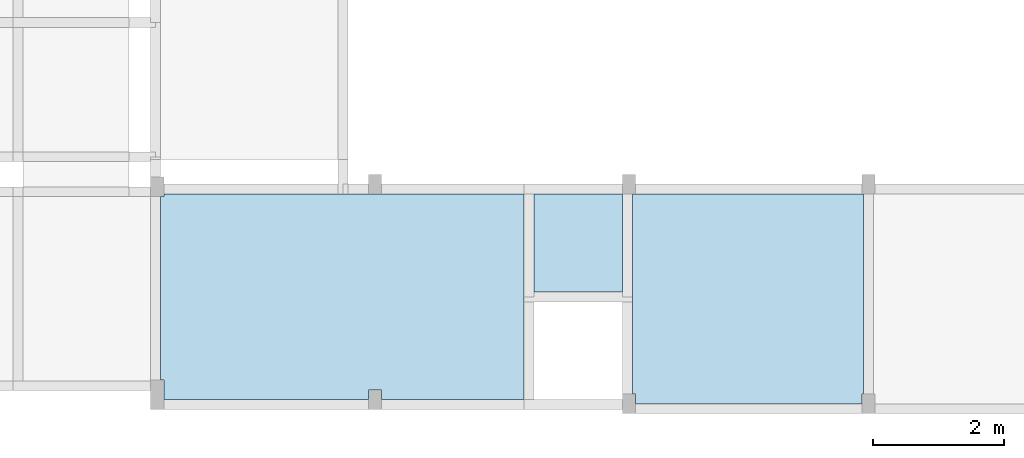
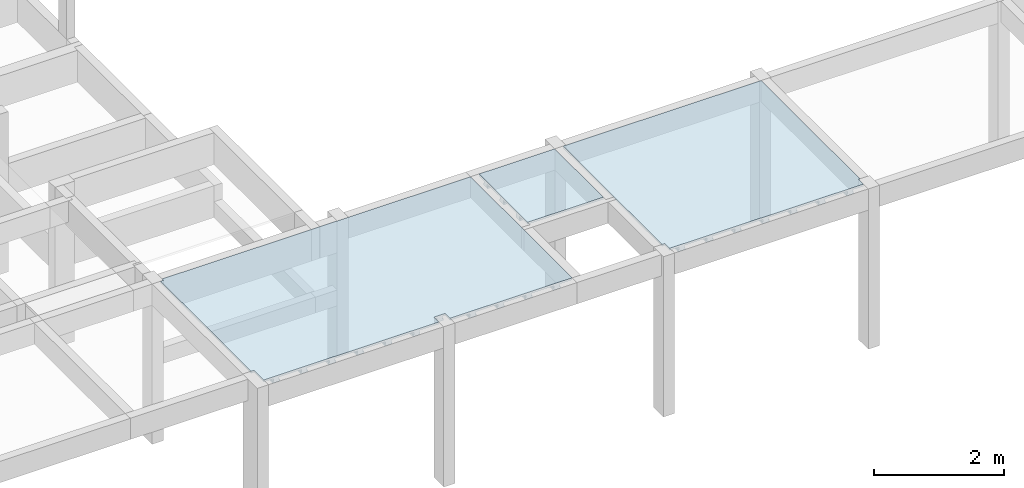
# One storey, part 10 of 21: 3 slabs.
"""IFC4 building model written with IfcOpenShell, lengths in centimetres."""

from ifc_helpers import new_model, si_unit, derived_unit, frame, origin_with_axes, place, context, project, spatial, polyline, outline, extrude, faceted_brep, material, element, save


model = new_model("IFC4")

# Units and contexts
model_context = context("Model", 3, precision=1e-05, world=origin_with_axes(), identifier="Body")
ifc_project = project(units=[si_unit("LENGTHUNIT", "METRE", prefix="CENTI"), si_unit("VOLUMEUNIT", "CUBIC_METRE"), si_unit("AREAUNIT", "SQUARE_METRE"), si_unit("POWERUNIT", "WATT"), si_unit("LUMINOUSFLUXUNIT", "LUMEN"), si_unit("ELECTRICCURRENTUNIT", "AMPERE"), si_unit("PRESSUREUNIT", "PASCAL", prefix="KILO"), si_unit("MASSUNIT", "GRAM", prefix="KILO"), si_unit("PLANEANGLEUNIT", "RADIAN"), derived_unit("VOLUMETRICFLOWRATEUNIT", [(si_unit("LENGTHUNIT", "METRE"), 3), (si_unit("TIMEUNIT", "SECOND"), -1)])], contexts=[model_context])

# Site, building, storey
site_placement = place(None, origin_with_axes())
site = spatial("IfcSite", under=ifc_project, at=site_placement)
building_placement = place(site_placement, frame((0.0, 0.0, -295.0)))
building = spatial("IfcBuilding", under=site, at=building_placement)
placement_1 = place(building_placement, origin_with_axes())
placement_2 = place(placement_1, frame((0.0, 0.0, 101.0), z_axis=(0.0, 0.0, 1.0), x_axis=(1.0, 0.0, 0.0)))
placement_3 = place(placement_2, frame((0.0, 0.0, 204.0), z_axis=(0.0, 0.0, 1.0), x_axis=(1.0, 0.0, 0.0)))
placement_4 = place(placement_3, frame((0.0, 0.0, 292.0), z_axis=(0.0, 0.0, 1.0), x_axis=(1.0, 0.0, 0.0)))
storey_placement = place(placement_4, frame((0.0, 0.0, 302.0), z_axis=(0.0, 0.0, 1.0), x_axis=(1.0, 0.0, 0.0)))
storey = spatial("IfcBuildingStorey", under=building, at=storey_placement, Name="PAVTO 02", CompositionType="ELEMENT", Elevation=604.0)

# Slabs
ifc_material = material(Name="Concreto")
slab_1_placement = place(storey_placement, frame((1466.25, -7001.065, 0.0), z_axis=(0.0, 0.0, 1.0), x_axis=(1.0, 0.0, 0.0)))
element("IfcSlab", 1, at=slab_1_placement, inside=storey, material=ifc_material, Name="L238", PredefinedType="FLOOR", context=model_context, shape_type="SolidModel", body=[
    extrude(outline(polyline([(39.71, -141.865), (59.71, -141.865), (59.71, -156.864), (277.349, -156.865), (277.35, 156.864), (-272.349, 156.865), (-272.349, 152.714), (-277.349, 152.714), (-277.35, -126.864), (-272.349, -126.865), (-272.349, -156.865), (39.71, -156.865), (39.71, -141.865), (39.71, -141.865)])), frame((0.0, 0.0, -4.0), z_axis=(0.0, 0.0, 1.0), x_axis=(1.0, 0.0, 0.0)), (0.0, 0.0, 1.0), 4.0),
    faceted_brep([(-5.0, -156.865, -12.0), (-5.0, 156.8645, -12.0), (5.0, 156.8645, -12.0), (5.0, -156.865, -12.0), (5.0, -156.865, -4.0), (5.0, 156.8645, -4.0), (-5.0, 156.8645, -4.0), (-5.0, -156.865, -4.0)], [[[0, 1, 2, 3]], [[4, 5, 6, 7]], [[4, 3, 5]], [[3, 2, 5]], [[5, 2, 6]], [[2, 1, 6]], [[6, 1, 7]], [[1, 0, 7]], [[7, 0, 4]], [[0, 3, 4]]]),
    faceted_brep([(-6.5, -156.865, -12.0), (-6.5, 156.8645, -12.0), (-5.0, 156.8645, -12.0), (-5.0, -156.865, -12.0), (-5.0, -156.865, -9.0), (-5.0, 156.8645, -9.0), (-6.5, 156.8645, -9.0), (-6.5, -156.865, -9.0)], [[[0, 1, 2, 3]], [[4, 5, 6, 7]], [[4, 3, 5]], [[3, 2, 5]], [[5, 2, 6]], [[2, 1, 6]], [[6, 1, 7]], [[1, 0, 7]], [[7, 0, 4]], [[0, 3, 4]]]),
    faceted_brep([(5.0, -156.865, -12.0), (5.0, 156.8645, -12.0), (6.5, 156.8645, -12.0), (6.5, -156.865, -12.0), (6.5, -156.865, -9.0), (6.5, 156.8645, -9.0), (5.0, 156.8645, -9.0), (5.0, -156.865, -9.0)], [[[0, 1, 2, 3]], [[4, 5, 6, 7]], [[4, 3, 5]], [[3, 2, 5]], [[5, 2, 6]], [[2, 1, 6]], [[6, 1, 7]], [[1, 0, 7]], [[7, 0, 4]], [[0, 3, 4]]]),
    faceted_brep([(-55.0, -156.865, -12.0), (-55.0, 156.8645, -12.0), (-45.0, 156.8645, -12.0), (-45.0, -156.865, -12.0), (-45.0, -156.865, -4.0), (-45.0, 156.8645, -4.0), (-55.0, 156.8645, -4.0), (-55.0, -156.865, -4.0)], [[[0, 1, 2, 3]], [[4, 5, 6, 7]], [[4, 3, 5]], [[3, 2, 5]], [[5, 2, 6]], [[2, 1, 6]], [[6, 1, 7]], [[1, 0, 7]], [[7, 0, 4]], [[0, 3, 4]]]),
    faceted_brep([(-56.5, -156.865, -12.0), (-56.5, 156.8645, -12.0), (-55.0, 156.8645, -12.0), (-55.0, -156.865, -12.0), (-55.0, -156.865, -9.0), (-55.0, 156.8645, -9.0), (-56.5, 156.8645, -9.0), (-56.5, -156.865, -9.0)], [[[0, 1, 2, 3]], [[4, 5, 6, 7]], [[4, 3, 5]], [[3, 2, 5]], [[5, 2, 6]], [[2, 1, 6]], [[6, 1, 7]], [[1, 0, 7]], [[7, 0, 4]], [[0, 3, 4]]]),
    faceted_brep([(-45.0, -156.865, -12.0), (-45.0, 156.8645, -12.0), (-43.5, 156.8645, -12.0), (-43.5, -156.865, -12.0), (-43.5, -156.865, -9.0), (-43.5, 156.8645, -9.0), (-45.0, 156.8645, -9.0), (-45.0, -156.865, -9.0)], [[[0, 1, 2, 3]], [[4, 5, 6, 7]], [[4, 3, 5]], [[3, 2, 5]], [[5, 2, 6]], [[2, 1, 6]], [[6, 1, 7]], [[1, 0, 7]], [[7, 0, 4]], [[0, 3, 4]]]),
    faceted_brep([(-105.0, -156.865, -12.0), (-105.0, 156.8645, -12.0), (-95.0, 156.8645, -12.0), (-95.0, -156.865, -12.0), (-95.0, -156.865, -4.0), (-95.0, 156.8645, -4.0), (-105.0, 156.8645, -4.0), (-105.0, -156.865, -4.0)], [[[0, 1, 2, 3]], [[4, 5, 6, 7]], [[4, 3, 5]], [[3, 2, 5]], [[5, 2, 6]], [[2, 1, 6]], [[6, 1, 7]], [[1, 0, 7]], [[7, 0, 4]], [[0, 3, 4]]]),
    faceted_brep([(-106.5, -156.865, -12.0), (-106.5, 156.8645, -12.0), (-105.0, 156.8645, -12.0), (-105.0, -156.865, -12.0), (-105.0, -156.865, -9.0), (-105.0, 156.8645, -9.0), (-106.5, 156.8645, -9.0), (-106.5, -156.865, -9.0)], [[[0, 1, 2, 3]], [[4, 5, 6, 7]], [[4, 3, 5]], [[3, 2, 5]], [[5, 2, 6]], [[2, 1, 6]], [[6, 1, 7]], [[1, 0, 7]], [[7, 0, 4]], [[0, 3, 4]]]),
    faceted_brep([(-95.0, -156.865, -12.0), (-95.0, 156.8645, -12.0), (-93.5, 156.8645, -12.0), (-93.5, -156.865, -12.0), (-93.5, -156.865, -9.0), (-93.5, 156.8645, -9.0), (-95.0, 156.8645, -9.0), (-95.0, -156.865, -9.0)], [[[0, 1, 2, 3]], [[4, 5, 6, 7]], [[4, 3, 5]], [[3, 2, 5]], [[5, 2, 6]], [[2, 1, 6]], [[6, 1, 7]], [[1, 0, 7]], [[7, 0, 4]], [[0, 3, 4]]]),
    faceted_brep([(-155.0, -156.865, -12.0), (-155.0, 156.8645, -12.0), (-145.0, 156.8645, -12.0), (-145.0, -156.865, -12.0), (-145.0, -156.865, -4.0), (-145.0, 156.8645, -4.0), (-155.0, 156.8645, -4.0), (-155.0, -156.865, -4.0)], [[[0, 1, 2, 3]], [[4, 5, 6, 7]], [[4, 3, 5]], [[3, 2, 5]], [[5, 2, 6]], [[2, 1, 6]], [[6, 1, 7]], [[1, 0, 7]], [[7, 0, 4]], [[0, 3, 4]]]),
    faceted_brep([(-156.5, -156.865, -12.0), (-156.5, 156.8645, -12.0), (-155.0, 156.8645, -12.0), (-155.0, -156.865, -12.0), (-155.0, -156.865, -9.0), (-155.0, 156.8645, -9.0), (-156.5, 156.8645, -9.0), (-156.5, -156.865, -9.0)], [[[0, 1, 2, 3]], [[4, 5, 6, 7]], [[4, 3, 5]], [[3, 2, 5]], [[5, 2, 6]], [[2, 1, 6]], [[6, 1, 7]], [[1, 0, 7]], [[7, 0, 4]], [[0, 3, 4]]]),
    faceted_brep([(-145.0, -156.865, -12.0), (-145.0, 156.8645, -12.0), (-143.5, 156.8645, -12.0), (-143.5, -156.865, -12.0), (-143.5, -156.865, -9.0), (-143.5, 156.8645, -9.0), (-145.0, 156.8645, -9.0), (-145.0, -156.865, -9.0)], [[[0, 1, 2, 3]], [[4, 5, 6, 7]], [[4, 3, 5]], [[3, 2, 5]], [[5, 2, 6]], [[2, 1, 6]], [[6, 1, 7]], [[1, 0, 7]], [[7, 0, 4]], [[0, 3, 4]]]),
    faceted_brep([(-205.0, -156.865, -12.0), (-205.0, 156.8645, -12.0), (-195.0, 156.8645, -12.0), (-195.0, -156.865, -12.0), (-195.0, -156.865, -4.0), (-195.0, 156.8645, -4.0), (-205.0, 156.8645, -4.0), (-205.0, -156.865, -4.0)], [[[0, 1, 2, 3]], [[4, 5, 6, 7]], [[4, 3, 5]], [[3, 2, 5]], [[5, 2, 6]], [[2, 1, 6]], [[6, 1, 7]], [[1, 0, 7]], [[7, 0, 4]], [[0, 3, 4]]]),
    faceted_brep([(-206.5, -156.865, -12.0), (-206.5, 156.8645, -12.0), (-205.0, 156.8645, -12.0), (-205.0, -156.865, -12.0), (-205.0, -156.865, -9.0), (-205.0, 156.8645, -9.0), (-206.5, 156.8645, -9.0), (-206.5, -156.865, -9.0)], [[[0, 1, 2, 3]], [[4, 5, 6, 7]], [[4, 3, 5]], [[3, 2, 5]], [[5, 2, 6]], [[2, 1, 6]], [[6, 1, 7]], [[1, 0, 7]], [[7, 0, 4]], [[0, 3, 4]]]),
    faceted_brep([(-195.0, -156.865, -12.0), (-195.0, 156.8645, -12.0), (-193.5, 156.8645, -12.0), (-193.5, -156.865, -12.0), (-193.5, -156.865, -9.0), (-193.5, 156.8645, -9.0), (-195.0, 156.8645, -9.0), (-195.0, -156.865, -9.0)], [[[0, 1, 2, 3]], [[4, 5, 6, 7]], [[4, 3, 5]], [[3, 2, 5]], [[5, 2, 6]], [[2, 1, 6]], [[6, 1, 7]], [[1, 0, 7]], [[7, 0, 4]], [[0, 3, 4]]]),
    faceted_brep([(-255.0, -156.865, -12.0), (-255.0, 156.8645, -12.0), (-245.0, 156.8645, -12.0), (-245.0, -156.865, -12.0), (-245.0, -156.865, -4.0), (-245.0, 156.8645, -4.0), (-255.0, 156.8645, -4.0), (-255.0, -156.865, -4.0)], [[[0, 1, 2, 3]], [[4, 5, 6, 7]], [[4, 3, 5]], [[3, 2, 5]], [[5, 2, 6]], [[2, 1, 6]], [[6, 1, 7]], [[1, 0, 7]], [[7, 0, 4]], [[0, 3, 4]]]),
    faceted_brep([(-256.5, -156.865, -12.0), (-256.5, 156.8645, -12.0), (-255.0, 156.8645, -12.0), (-255.0, -156.865, -12.0), (-255.0, -156.865, -9.0), (-255.0, 156.8645, -9.0), (-256.5, 156.8645, -9.0), (-256.5, -156.865, -9.0)], [[[0, 1, 2, 3]], [[4, 5, 6, 7]], [[4, 3, 5]], [[3, 2, 5]], [[5, 2, 6]], [[2, 1, 6]], [[6, 1, 7]], [[1, 0, 7]], [[7, 0, 4]], [[0, 3, 4]]]),
    faceted_brep([(-245.0, -156.865, -12.0), (-245.0, 156.8645, -12.0), (-243.5, 156.8645, -12.0), (-243.5, -156.865, -12.0), (-243.5, -156.865, -9.0), (-243.5, 156.8645, -9.0), (-245.0, 156.8645, -9.0), (-245.0, -156.865, -9.0)], [[[0, 1, 2, 3]], [[4, 5, 6, 7]], [[4, 3, 5]], [[3, 2, 5]], [[5, 2, 6]], [[2, 1, 6]], [[6, 1, 7]], [[1, 0, 7]], [[7, 0, 4]], [[0, 3, 4]]]),
    faceted_brep([(45.0, -141.865, -12.0), (45.0, 156.8645, -12.0), (55.0, 156.8645, -12.0), (55.0, -141.865, -12.0), (55.0, -141.865, -4.0), (55.0, 156.8645, -4.0), (45.0, 156.8645, -4.0), (45.0, -141.865, -4.0)], [[[0, 1, 2, 3]], [[4, 5, 6, 7]], [[4, 3, 5]], [[3, 2, 5]], [[5, 2, 6]], [[2, 1, 6]], [[6, 1, 7]], [[1, 0, 7]], [[7, 0, 4]], [[0, 3, 4]]]),
    faceted_brep([(43.5, -141.865, -12.0), (43.5, 156.8645, -12.0), (45.0, 156.8645, -12.0), (45.0, -141.865, -12.0), (45.0, -141.865, -9.0), (45.0, 156.8645, -9.0), (43.5, 156.8645, -9.0), (43.5, -141.865, -9.0)], [[[0, 1, 2, 3]], [[4, 5, 6, 7]], [[4, 3, 5]], [[3, 2, 5]], [[5, 2, 6]], [[2, 1, 6]], [[6, 1, 7]], [[1, 0, 7]], [[7, 0, 4]], [[0, 3, 4]]]),
    faceted_brep([(55.0, -141.865, -12.0), (55.0, 156.8645, -12.0), (56.5, 156.8645, -12.0), (56.5, -141.865, -12.0), (56.5, -141.865, -9.0), (56.5, 156.8645, -9.0), (55.0, 156.8645, -9.0), (55.0, -141.865, -9.0)], [[[0, 1, 2, 3]], [[4, 5, 6, 7]], [[4, 3, 5]], [[3, 2, 5]], [[5, 2, 6]], [[2, 1, 6]], [[6, 1, 7]], [[1, 0, 7]], [[7, 0, 4]], [[0, 3, 4]]]),
    faceted_brep([(95.0, -156.8645, -12.0), (95.0, 156.8645, -12.0), (105.0, 156.8645, -12.0), (105.0, -156.8645, -12.0), (105.0, -156.8645, -4.0), (105.0, 156.8645, -4.0), (95.0, 156.8645, -4.0), (95.0, -156.8645, -4.0)], [[[0, 1, 2, 3]], [[4, 5, 6, 7]], [[4, 3, 5]], [[3, 2, 5]], [[5, 2, 6]], [[2, 1, 6]], [[6, 1, 7]], [[1, 0, 7]], [[7, 0, 4]], [[0, 3, 4]]]),
    faceted_brep([(93.5, -156.8645, -12.0), (93.5, 156.8645, -12.0), (95.0, 156.8645, -12.0), (95.0, -156.8645, -12.0), (95.0, -156.8645, -9.0), (95.0, 156.8645, -9.0), (93.5, 156.8645, -9.0), (93.5, -156.8645, -9.0)], [[[0, 1, 2, 3]], [[4, 5, 6, 7]], [[4, 3, 5]], [[3, 2, 5]], [[5, 2, 6]], [[2, 1, 6]], [[6, 1, 7]], [[1, 0, 7]], [[7, 0, 4]], [[0, 3, 4]]]),
    faceted_brep([(105.0, -156.8645, -12.0), (105.0, 156.8645, -12.0), (106.5, 156.8645, -12.0), (106.5, -156.8645, -12.0), (106.5, -156.8645, -9.0), (106.5, 156.8645, -9.0), (105.0, 156.8645, -9.0), (105.0, -156.8645, -9.0)], [[[0, 1, 2, 3]], [[4, 5, 6, 7]], [[4, 3, 5]], [[3, 2, 5]], [[5, 2, 6]], [[2, 1, 6]], [[6, 1, 7]], [[1, 0, 7]], [[7, 0, 4]], [[0, 3, 4]]]),
    faceted_brep([(145.0, -156.8645, -12.0), (145.0, 156.8645, -12.0), (155.0, 156.8645, -12.0), (155.0, -156.8645, -12.0), (155.0, -156.8645, -4.0), (155.0, 156.8645, -4.0), (145.0, 156.8645, -4.0), (145.0, -156.8645, -4.0)], [[[0, 1, 2, 3]], [[4, 5, 6, 7]], [[4, 3, 5]], [[3, 2, 5]], [[5, 2, 6]], [[2, 1, 6]], [[6, 1, 7]], [[1, 0, 7]], [[7, 0, 4]], [[0, 3, 4]]]),
    faceted_brep([(143.5, -156.8645, -12.0), (143.5, 156.8645, -12.0), (145.0, 156.8645, -12.0), (145.0, -156.8645, -12.0), (145.0, -156.8645, -9.0), (145.0, 156.8645, -9.0), (143.5, 156.8645, -9.0), (143.5, -156.8645, -9.0)], [[[0, 1, 2, 3]], [[4, 5, 6, 7]], [[4, 3, 5]], [[3, 2, 5]], [[5, 2, 6]], [[2, 1, 6]], [[6, 1, 7]], [[1, 0, 7]], [[7, 0, 4]], [[0, 3, 4]]]),
    faceted_brep([(155.0, -156.8645, -12.0), (155.0, 156.8645, -12.0), (156.5, 156.8645, -12.0), (156.5, -156.8645, -12.0), (156.5, -156.8645, -9.0), (156.5, 156.8645, -9.0), (155.0, 156.8645, -9.0), (155.0, -156.8645, -9.0)], [[[0, 1, 2, 3]], [[4, 5, 6, 7]], [[4, 3, 5]], [[3, 2, 5]], [[5, 2, 6]], [[2, 1, 6]], [[6, 1, 7]], [[1, 0, 7]], [[7, 0, 4]], [[0, 3, 4]]]),
    faceted_brep([(195.0, -156.8645, -12.0), (195.0, 156.8645, -12.0), (205.0, 156.8645, -12.0), (205.0, -156.8645, -12.0), (205.0, -156.8645, -4.0), (205.0, 156.8645, -4.0), (195.0, 156.8645, -4.0), (195.0, -156.8645, -4.0)], [[[0, 1, 2, 3]], [[4, 5, 6, 7]], [[4, 3, 5]], [[3, 2, 5]], [[5, 2, 6]], [[2, 1, 6]], [[6, 1, 7]], [[1, 0, 7]], [[7, 0, 4]], [[0, 3, 4]]]),
    faceted_brep([(193.5, -156.8645, -12.0), (193.5, 156.8645, -12.0), (195.0, 156.8645, -12.0), (195.0, -156.8645, -12.0), (195.0, -156.8645, -9.0), (195.0, 156.8645, -9.0), (193.5, 156.8645, -9.0), (193.5, -156.8645, -9.0)], [[[0, 1, 2, 3]], [[4, 5, 6, 7]], [[4, 3, 5]], [[3, 2, 5]], [[5, 2, 6]], [[2, 1, 6]], [[6, 1, 7]], [[1, 0, 7]], [[7, 0, 4]], [[0, 3, 4]]]),
    faceted_brep([(205.0, -156.8645, -12.0), (205.0, 156.8645, -12.0), (206.5, 156.8645, -12.0), (206.5, -156.8645, -12.0), (206.5, -156.8645, -9.0), (206.5, 156.8645, -9.0), (205.0, 156.8645, -9.0), (205.0, -156.8645, -9.0)], [[[0, 1, 2, 3]], [[4, 5, 6, 7]], [[4, 3, 5]], [[3, 2, 5]], [[5, 2, 6]], [[2, 1, 6]], [[6, 1, 7]], [[1, 0, 7]], [[7, 0, 4]], [[0, 3, 4]]]),
    faceted_brep([(245.0, -156.8645, -12.0), (245.0, 156.8645, -12.0), (255.0, 156.8645, -12.0), (255.0, -156.8645, -12.0), (255.0, -156.8645, -4.0), (255.0, 156.8645, -4.0), (245.0, 156.8645, -4.0), (245.0, -156.8645, -4.0)], [[[0, 1, 2, 3]], [[4, 5, 6, 7]], [[4, 3, 5]], [[3, 2, 5]], [[5, 2, 6]], [[2, 1, 6]], [[6, 1, 7]], [[1, 0, 7]], [[7, 0, 4]], [[0, 3, 4]]]),
    faceted_brep([(243.5, -156.8645, -12.0), (243.5, 156.8645, -12.0), (245.0, 156.8645, -12.0), (245.0, -156.8645, -12.0), (245.0, -156.8645, -9.0), (245.0, 156.8645, -9.0), (243.5, 156.8645, -9.0), (243.5, -156.8645, -9.0)], [[[0, 1, 2, 3]], [[4, 5, 6, 7]], [[4, 3, 5]], [[3, 2, 5]], [[5, 2, 6]], [[2, 1, 6]], [[6, 1, 7]], [[1, 0, 7]], [[7, 0, 4]], [[0, 3, 4]]]),
    faceted_brep([(255.0, -156.8645, -12.0), (255.0, 156.8645, -12.0), (256.5, 156.8645, -12.0), (256.5, -156.8645, -12.0), (256.5, -156.8645, -9.0), (256.5, 156.8645, -9.0), (255.0, 156.8645, -9.0), (255.0, -156.8645, -9.0)], [[[0, 1, 2, 3]], [[4, 5, 6, 7]], [[4, 3, 5]], [[3, 2, 5]], [[5, 2, 6]], [[2, 1, 6]], [[6, 1, 7]], [[1, 0, 7]], [[7, 0, 4]], [[0, 3, 4]]]),
])
slab_2_placement = place(storey_placement, frame((1826.1, -6919.17, 0.0), z_axis=(0.0, 0.0, 1.0), x_axis=(1.0, 0.0, 0.0)))
element("IfcSlab", 2, at=slab_2_placement, inside=storey, material=ifc_material, Name="L239", PredefinedType="FLOOR", context=model_context, shape_type="SolidModel", body=[
    extrude(outline(polyline([(67.499, 74.97), (-67.499, 74.969), (-67.5, -74.97), (67.5, -74.97), (67.499, 74.97), (67.499, 74.97)])), frame((0.0, 0.0, -4.0), z_axis=(0.0, 0.0, 1.0), x_axis=(1.0, 0.0, 0.0)), (0.0, 0.0, 1.0), 4.0),
    faceted_brep([(-67.4995, -40.0, -12.0), (67.4995, -40.0, -12.0), (67.4995, -50.0, -12.0), (-67.4995, -50.0, -12.0), (-67.4995, -50.0, -4.0), (67.4995, -50.0, -4.0), (67.4995, -40.0, -4.0), (-67.4995, -40.0, -4.0)], [[[0, 1, 2, 3]], [[4, 5, 6, 7]], [[4, 3, 5]], [[3, 2, 5]], [[5, 2, 6]], [[2, 1, 6]], [[6, 1, 7]], [[1, 0, 7]], [[7, 0, 4]], [[0, 3, 4]]]),
    faceted_brep([(-67.4995, -38.5, -12.0), (67.4995, -38.5, -12.0), (67.4995, -40.0, -12.0), (-67.4995, -40.0, -12.0), (-67.4995, -40.0, -9.0), (67.4995, -40.0, -9.0), (67.4995, -38.5, -9.0), (-67.4995, -38.5, -9.0)], [[[0, 1, 2, 3]], [[4, 5, 6, 7]], [[4, 3, 5]], [[3, 2, 5]], [[5, 2, 6]], [[2, 1, 6]], [[6, 1, 7]], [[1, 0, 7]], [[7, 0, 4]], [[0, 3, 4]]]),
    faceted_brep([(-67.4995, -50.0, -12.0), (67.4995, -50.0, -12.0), (67.4995, -51.5, -12.0), (-67.4995, -51.5, -12.0), (-67.4995, -51.5, -9.0), (67.4995, -51.5, -9.0), (67.4995, -50.0, -9.0), (-67.4995, -50.0, -9.0)], [[[0, 1, 2, 3]], [[4, 5, 6, 7]], [[4, 3, 5]], [[3, 2, 5]], [[5, 2, 6]], [[2, 1, 6]], [[6, 1, 7]], [[1, 0, 7]], [[7, 0, 4]], [[0, 3, 4]]]),
    faceted_brep([(-67.4995, 10.0, -12.0), (67.4995, 10.0, -12.0), (67.4995, 0.0, -12.0), (-67.4995, 0.0, -12.0), (-67.4995, 0.0, -4.0), (67.4995, 0.0, -4.0), (67.4995, 10.0, -4.0), (-67.4995, 10.0, -4.0)], [[[0, 1, 2, 3]], [[4, 5, 6, 7]], [[4, 3, 5]], [[3, 2, 5]], [[5, 2, 6]], [[2, 1, 6]], [[6, 1, 7]], [[1, 0, 7]], [[7, 0, 4]], [[0, 3, 4]]]),
    faceted_brep([(-67.4995, 11.5, -12.0), (67.4995, 11.5, -12.0), (67.4995, 10.0, -12.0), (-67.4995, 10.0, -12.0), (-67.4995, 10.0, -9.0), (67.4995, 10.0, -9.0), (67.4995, 11.5, -9.0), (-67.4995, 11.5, -9.0)], [[[0, 1, 2, 3]], [[4, 5, 6, 7]], [[4, 3, 5]], [[3, 2, 5]], [[5, 2, 6]], [[2, 1, 6]], [[6, 1, 7]], [[1, 0, 7]], [[7, 0, 4]], [[0, 3, 4]]]),
    faceted_brep([(-67.4995, 0.0, -12.0), (67.4995, 0.0, -12.0), (67.4995, -1.5, -12.0), (-67.4995, -1.5, -12.0), (-67.4995, -1.5, -9.0), (67.4995, -1.5, -9.0), (67.4995, 0.0, -9.0), (-67.4995, 0.0, -9.0)], [[[0, 1, 2, 3]], [[4, 5, 6, 7]], [[4, 3, 5]], [[3, 2, 5]], [[5, 2, 6]], [[2, 1, 6]], [[6, 1, 7]], [[1, 0, 7]], [[7, 0, 4]], [[0, 3, 4]]]),
    faceted_brep([(-67.4995, 60.0, -12.0), (67.4995, 60.0, -12.0), (67.4995, 50.0, -12.0), (-67.4995, 50.0, -12.0), (-67.4995, 50.0, -4.0), (67.4995, 50.0, -4.0), (67.4995, 60.0, -4.0), (-67.4995, 60.0, -4.0)], [[[0, 1, 2, 3]], [[4, 5, 6, 7]], [[4, 3, 5]], [[3, 2, 5]], [[5, 2, 6]], [[2, 1, 6]], [[6, 1, 7]], [[1, 0, 7]], [[7, 0, 4]], [[0, 3, 4]]]),
    faceted_brep([(-67.4995, 61.5, -12.0), (67.4995, 61.5, -12.0), (67.4995, 60.0, -12.0), (-67.4995, 60.0, -12.0), (-67.4995, 60.0, -9.0), (67.4995, 60.0, -9.0), (67.4995, 61.5, -9.0), (-67.4995, 61.5, -9.0)], [[[0, 1, 2, 3]], [[4, 5, 6, 7]], [[4, 3, 5]], [[3, 2, 5]], [[5, 2, 6]], [[2, 1, 6]], [[6, 1, 7]], [[1, 0, 7]], [[7, 0, 4]], [[0, 3, 4]]]),
    faceted_brep([(-67.4995, 50.0, -12.0), (67.4995, 50.0, -12.0), (67.4995, 48.5, -12.0), (-67.4995, 48.5, -12.0), (-67.4995, 48.5, -9.0), (67.4995, 48.5, -9.0), (67.4995, 50.0, -9.0), (-67.4995, 50.0, -9.0)], [[[0, 1, 2, 3]], [[4, 5, 6, 7]], [[4, 3, 5]], [[3, 2, 5]], [[5, 2, 6]], [[2, 1, 6]], [[6, 1, 7]], [[1, 0, 7]], [[7, 0, 4]], [[0, 3, 4]]]),
])
slab_3_placement = place(storey_placement, frame((2084.915, -7004.255, 0.0), z_axis=(0.0, 0.0, 1.0), x_axis=(1.0, 0.0, 0.0)))
element("IfcSlab", 3, at=slab_3_placement, inside=storey, material=ifc_material, Name="L240", PredefinedType="FLOOR", context=model_context, shape_type="SolidModel", body=[
    extrude(outline(polyline([(173.815, -145.055), (176.314, -145.054), (176.315, 160.055), (-176.314, 160.055), (-176.315, -145.055), (-171.315, -145.055), (-171.314, -160.055), (173.815, -160.055), (173.815, -145.055), (173.815, -145.055)])), frame((0.0, 0.0, -4.0), z_axis=(0.0, 0.0, 1.0), x_axis=(1.0, 0.0, 0.0)), (0.0, 0.0, 1.0), 4.0),
    faceted_brep([(-5.0, -160.055, -12.0), (-5.0, 160.055, -12.0), (5.0, 160.055, -12.0), (5.0, -160.055, -12.0), (5.0, -160.055, -4.0), (5.0, 160.055, -4.0), (-5.0, 160.055, -4.0), (-5.0, -160.055, -4.0)], [[[0, 1, 2, 3]], [[4, 5, 6, 7]], [[4, 3, 5]], [[3, 2, 5]], [[5, 2, 6]], [[2, 1, 6]], [[6, 1, 7]], [[1, 0, 7]], [[7, 0, 4]], [[0, 3, 4]]]),
    faceted_brep([(-6.5, -160.055, -12.0), (-6.5, 160.055, -12.0), (-5.0, 160.055, -12.0), (-5.0, -160.055, -12.0), (-5.0, -160.055, -9.0), (-5.0, 160.055, -9.0), (-6.5, 160.055, -9.0), (-6.5, -160.055, -9.0)], [[[0, 1, 2, 3]], [[4, 5, 6, 7]], [[4, 3, 5]], [[3, 2, 5]], [[5, 2, 6]], [[2, 1, 6]], [[6, 1, 7]], [[1, 0, 7]], [[7, 0, 4]], [[0, 3, 4]]]),
    faceted_brep([(5.0, -160.055, -12.0), (5.0, 160.055, -12.0), (6.5, 160.055, -12.0), (6.5, -160.055, -12.0), (6.5, -160.055, -9.0), (6.5, 160.055, -9.0), (5.0, 160.055, -9.0), (5.0, -160.055, -9.0)], [[[0, 1, 2, 3]], [[4, 5, 6, 7]], [[4, 3, 5]], [[3, 2, 5]], [[5, 2, 6]], [[2, 1, 6]], [[6, 1, 7]], [[1, 0, 7]], [[7, 0, 4]], [[0, 3, 4]]]),
    faceted_brep([(-55.0, -160.055, -12.0), (-55.0, 160.055, -12.0), (-45.0, 160.055, -12.0), (-45.0, -160.055, -12.0), (-45.0, -160.055, -4.0), (-45.0, 160.055, -4.0), (-55.0, 160.055, -4.0), (-55.0, -160.055, -4.0)], [[[0, 1, 2, 3]], [[4, 5, 6, 7]], [[4, 3, 5]], [[3, 2, 5]], [[5, 2, 6]], [[2, 1, 6]], [[6, 1, 7]], [[1, 0, 7]], [[7, 0, 4]], [[0, 3, 4]]]),
    faceted_brep([(-56.5, -160.055, -12.0), (-56.5, 160.055, -12.0), (-55.0, 160.055, -12.0), (-55.0, -160.055, -12.0), (-55.0, -160.055, -9.0), (-55.0, 160.055, -9.0), (-56.5, 160.055, -9.0), (-56.5, -160.055, -9.0)], [[[0, 1, 2, 3]], [[4, 5, 6, 7]], [[4, 3, 5]], [[3, 2, 5]], [[5, 2, 6]], [[2, 1, 6]], [[6, 1, 7]], [[1, 0, 7]], [[7, 0, 4]], [[0, 3, 4]]]),
    faceted_brep([(-45.0, -160.055, -12.0), (-45.0, 160.055, -12.0), (-43.5, 160.055, -12.0), (-43.5, -160.055, -12.0), (-43.5, -160.055, -9.0), (-43.5, 160.055, -9.0), (-45.0, 160.055, -9.0), (-45.0, -160.055, -9.0)], [[[0, 1, 2, 3]], [[4, 5, 6, 7]], [[4, 3, 5]], [[3, 2, 5]], [[5, 2, 6]], [[2, 1, 6]], [[6, 1, 7]], [[1, 0, 7]], [[7, 0, 4]], [[0, 3, 4]]]),
    faceted_brep([(-105.0, -160.055, -12.0), (-105.0, 160.055, -12.0), (-95.0, 160.055, -12.0), (-95.0, -160.055, -12.0), (-95.0, -160.055, -4.0), (-95.0, 160.055, -4.0), (-105.0, 160.055, -4.0), (-105.0, -160.055, -4.0)], [[[0, 1, 2, 3]], [[4, 5, 6, 7]], [[4, 3, 5]], [[3, 2, 5]], [[5, 2, 6]], [[2, 1, 6]], [[6, 1, 7]], [[1, 0, 7]], [[7, 0, 4]], [[0, 3, 4]]]),
    faceted_brep([(-106.5, -160.055, -12.0), (-106.5, 160.055, -12.0), (-105.0, 160.055, -12.0), (-105.0, -160.055, -12.0), (-105.0, -160.055, -9.0), (-105.0, 160.055, -9.0), (-106.5, 160.055, -9.0), (-106.5, -160.055, -9.0)], [[[0, 1, 2, 3]], [[4, 5, 6, 7]], [[4, 3, 5]], [[3, 2, 5]], [[5, 2, 6]], [[2, 1, 6]], [[6, 1, 7]], [[1, 0, 7]], [[7, 0, 4]], [[0, 3, 4]]]),
    faceted_brep([(-95.0, -160.055, -12.0), (-95.0, 160.055, -12.0), (-93.5, 160.055, -12.0), (-93.5, -160.055, -12.0), (-93.5, -160.055, -9.0), (-93.5, 160.055, -9.0), (-95.0, 160.055, -9.0), (-95.0, -160.055, -9.0)], [[[0, 1, 2, 3]], [[4, 5, 6, 7]], [[4, 3, 5]], [[3, 2, 5]], [[5, 2, 6]], [[2, 1, 6]], [[6, 1, 7]], [[1, 0, 7]], [[7, 0, 4]], [[0, 3, 4]]]),
    faceted_brep([(-155.0, -160.055, -12.0), (-155.0, 160.055, -12.0), (-145.0, 160.055, -12.0), (-145.0, -160.055, -12.0), (-145.0, -160.055, -4.0), (-145.0, 160.055, -4.0), (-155.0, 160.055, -4.0), (-155.0, -160.055, -4.0)], [[[0, 1, 2, 3]], [[4, 5, 6, 7]], [[4, 3, 5]], [[3, 2, 5]], [[5, 2, 6]], [[2, 1, 6]], [[6, 1, 7]], [[1, 0, 7]], [[7, 0, 4]], [[0, 3, 4]]]),
    faceted_brep([(-156.5, -160.055, -12.0), (-156.5, 160.055, -12.0), (-155.0, 160.055, -12.0), (-155.0, -160.055, -12.0), (-155.0, -160.055, -9.0), (-155.0, 160.055, -9.0), (-156.5, 160.055, -9.0), (-156.5, -160.055, -9.0)], [[[0, 1, 2, 3]], [[4, 5, 6, 7]], [[4, 3, 5]], [[3, 2, 5]], [[5, 2, 6]], [[2, 1, 6]], [[6, 1, 7]], [[1, 0, 7]], [[7, 0, 4]], [[0, 3, 4]]]),
    faceted_brep([(-145.0, -160.055, -12.0), (-145.0, 160.055, -12.0), (-143.5, 160.055, -12.0), (-143.5, -160.055, -12.0), (-143.5, -160.055, -9.0), (-143.5, 160.055, -9.0), (-145.0, 160.055, -9.0), (-145.0, -160.055, -9.0)], [[[0, 1, 2, 3]], [[4, 5, 6, 7]], [[4, 3, 5]], [[3, 2, 5]], [[5, 2, 6]], [[2, 1, 6]], [[6, 1, 7]], [[1, 0, 7]], [[7, 0, 4]], [[0, 3, 4]]]),
    faceted_brep([(45.0, -160.055, -12.0), (45.0, 160.055, -12.0), (55.0, 160.055, -12.0), (55.0, -160.055, -12.0), (55.0, -160.055, -4.0), (55.0, 160.055, -4.0), (45.0, 160.055, -4.0), (45.0, -160.055, -4.0)], [[[0, 1, 2, 3]], [[4, 5, 6, 7]], [[4, 3, 5]], [[3, 2, 5]], [[5, 2, 6]], [[2, 1, 6]], [[6, 1, 7]], [[1, 0, 7]], [[7, 0, 4]], [[0, 3, 4]]]),
    faceted_brep([(43.5, -160.055, -12.0), (43.5, 160.055, -12.0), (45.0, 160.055, -12.0), (45.0, -160.055, -12.0), (45.0, -160.055, -9.0), (45.0, 160.055, -9.0), (43.5, 160.055, -9.0), (43.5, -160.055, -9.0)], [[[0, 1, 2, 3]], [[4, 5, 6, 7]], [[4, 3, 5]], [[3, 2, 5]], [[5, 2, 6]], [[2, 1, 6]], [[6, 1, 7]], [[1, 0, 7]], [[7, 0, 4]], [[0, 3, 4]]]),
    faceted_brep([(55.0, -160.055, -12.0), (55.0, 160.055, -12.0), (56.5, 160.055, -12.0), (56.5, -160.055, -12.0), (56.5, -160.055, -9.0), (56.5, 160.055, -9.0), (55.0, 160.055, -9.0), (55.0, -160.055, -9.0)], [[[0, 1, 2, 3]], [[4, 5, 6, 7]], [[4, 3, 5]], [[3, 2, 5]], [[5, 2, 6]], [[2, 1, 6]], [[6, 1, 7]], [[1, 0, 7]], [[7, 0, 4]], [[0, 3, 4]]]),
    faceted_brep([(95.0, -160.055, -12.0), (95.0, 160.055, -12.0), (105.0, 160.055, -12.0), (105.0, -160.055, -12.0), (105.0, -160.055, -4.0), (105.0, 160.055, -4.0), (95.0, 160.055, -4.0), (95.0, -160.055, -4.0)], [[[0, 1, 2, 3]], [[4, 5, 6, 7]], [[4, 3, 5]], [[3, 2, 5]], [[5, 2, 6]], [[2, 1, 6]], [[6, 1, 7]], [[1, 0, 7]], [[7, 0, 4]], [[0, 3, 4]]]),
    faceted_brep([(93.5, -160.055, -12.0), (93.5, 160.055, -12.0), (95.0, 160.055, -12.0), (95.0, -160.055, -12.0), (95.0, -160.055, -9.0), (95.0, 160.055, -9.0), (93.5, 160.055, -9.0), (93.5, -160.055, -9.0)], [[[0, 1, 2, 3]], [[4, 5, 6, 7]], [[4, 3, 5]], [[3, 2, 5]], [[5, 2, 6]], [[2, 1, 6]], [[6, 1, 7]], [[1, 0, 7]], [[7, 0, 4]], [[0, 3, 4]]]),
    faceted_brep([(105.0, -160.055, -12.0), (105.0, 160.055, -12.0), (106.5, 160.055, -12.0), (106.5, -160.055, -12.0), (106.5, -160.055, -9.0), (106.5, 160.055, -9.0), (105.0, 160.055, -9.0), (105.0, -160.055, -9.0)], [[[0, 1, 2, 3]], [[4, 5, 6, 7]], [[4, 3, 5]], [[3, 2, 5]], [[5, 2, 6]], [[2, 1, 6]], [[6, 1, 7]], [[1, 0, 7]], [[7, 0, 4]], [[0, 3, 4]]]),
    faceted_brep([(145.0, -160.055, -12.0), (145.0, 160.055, -12.0), (155.0, 160.055, -12.0), (155.0, -160.055, -12.0), (155.0, -160.055, -4.0), (155.0, 160.055, -4.0), (145.0, 160.055, -4.0), (145.0, -160.055, -4.0)], [[[0, 1, 2, 3]], [[4, 5, 6, 7]], [[4, 3, 5]], [[3, 2, 5]], [[5, 2, 6]], [[2, 1, 6]], [[6, 1, 7]], [[1, 0, 7]], [[7, 0, 4]], [[0, 3, 4]]]),
    faceted_brep([(143.5, -160.055, -12.0), (143.5, 160.055, -12.0), (145.0, 160.055, -12.0), (145.0, -160.055, -12.0), (145.0, -160.055, -9.0), (145.0, 160.055, -9.0), (143.5, 160.055, -9.0), (143.5, -160.055, -9.0)], [[[0, 1, 2, 3]], [[4, 5, 6, 7]], [[4, 3, 5]], [[3, 2, 5]], [[5, 2, 6]], [[2, 1, 6]], [[6, 1, 7]], [[1, 0, 7]], [[7, 0, 4]], [[0, 3, 4]]]),
    faceted_brep([(155.0, -160.055, -12.0), (155.0, 160.055, -12.0), (156.5, 160.055, -12.0), (156.5, -160.055, -12.0), (156.5, -160.055, -9.0), (156.5, 160.055, -9.0), (155.0, 160.055, -9.0), (155.0, -160.055, -9.0)], [[[0, 1, 2, 3]], [[4, 5, 6, 7]], [[4, 3, 5]], [[3, 2, 5]], [[5, 2, 6]], [[2, 1, 6]], [[6, 1, 7]], [[1, 0, 7]], [[7, 0, 4]], [[0, 3, 4]]]),
])

save(model, "model.ifc")
